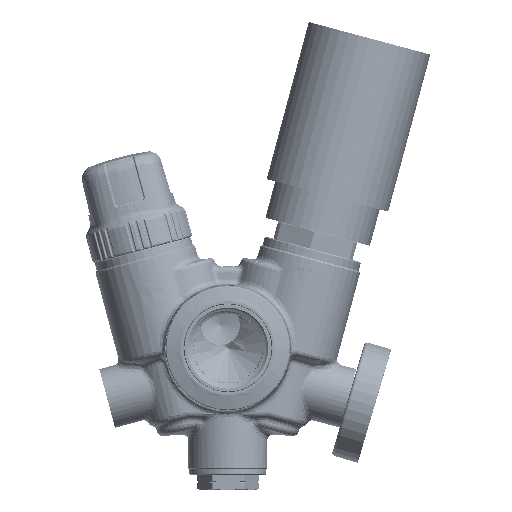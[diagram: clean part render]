
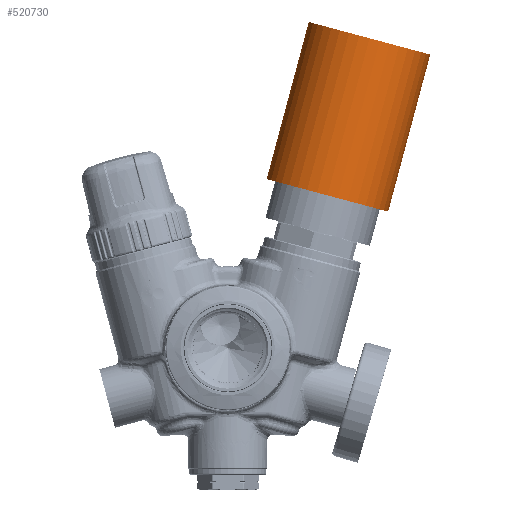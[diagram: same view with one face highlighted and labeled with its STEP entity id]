
A CAD part, left-side view. The second image highlights one B-rep face of the part: STEP entity #520730.
In plain terms, the highlighted cylindrical face has radius 20.766 mm (diameter 41.532 mm), a partial arc.
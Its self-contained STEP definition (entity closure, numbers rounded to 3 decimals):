
#520581 = VERTEX_POINT('',#520582);
#520582 = CARTESIAN_POINT('',(18.911,36.457,
    94.465));
#520589 = PLANE('',#520590);
#520590 = AXIS2_PLACEMENT_3D('',#520591,#520592,#520593);
#520591 = CARTESIAN_POINT('',(14.178,52.947,
    98.884));
#520592 = DIRECTION('',(0.,0.259,-0.966));
#520593 = DIRECTION('',(1.,0.,0.));
#520601 = PLANE('',#520602);
#520602 = AXIS2_PLACEMENT_3D('',#520603,#520604,#520605);
#520603 = CARTESIAN_POINT('',(16.408,29.514,
    120.378));
#520604 = DIRECTION('',(0.,0.966,0.259));
#520605 = DIRECTION('',(0.,-0.259,0.966));
#520613 = EDGE_CURVE('',#520614,#520581,#520616,.T.);
#520614 = VERTEX_POINT('',#520615);
#520615 = CARTESIAN_POINT('',(18.911,52.947,
    98.884));
#520616 = SURFACE_CURVE('',#520617,(#520622,#520633),.PCURVE_S1.);
#520617 = CIRCLE('',#520618,20.766);
#520618 = AXIS2_PLACEMENT_3D('',#520619,#520620,#520621);
#520619 = CARTESIAN_POINT('',(-0.02,44.702,
    96.674));
#520620 = DIRECTION('',(0.,-0.259,0.966));
#520621 = DIRECTION('',(1.,0.,0.));
#520622 = PCURVE('',#520589,#520623);
#520623 = DEFINITIONAL_REPRESENTATION('',(#520624),#520632);
#520624 = ( BOUNDED_CURVE() B_SPLINE_CURVE(2,(#520625,#520626,#520627,
    #520628,#520629,#520630,#520631),.UNSPECIFIED.,.T.,.F.) 
B_SPLINE_CURVE_WITH_KNOTS((1,2,2,2,2,1),(-2.094,0.,
    2.094,4.189,6.283,8.378),
.UNSPECIFIED.) CURVE() GEOMETRIC_REPRESENTATION_ITEM() 
RATIONAL_B_SPLINE_CURVE((1.,0.5,1.,0.5,1.,0.5,1.)) REPRESENTATION_ITEM(
  '') );
#520625 = CARTESIAN_POINT('',(6.568,8.536));
#520626 = CARTESIAN_POINT('',(6.568,-27.432));
#520627 = CARTESIAN_POINT('',(-24.581,-9.448));
#520628 = CARTESIAN_POINT('',(-55.73,8.536));
#520629 = CARTESIAN_POINT('',(-24.581,26.52));
#520630 = CARTESIAN_POINT('',(6.568,44.504));
#520631 = CARTESIAN_POINT('',(6.568,8.536));
#520632 = ( GEOMETRIC_REPRESENTATION_CONTEXT(2) 
PARAMETRIC_REPRESENTATION_CONTEXT() REPRESENTATION_CONTEXT('2D SPACE',''
  ) );
#520633 = PCURVE('',#520634,#520639);
#520634 = CYLINDRICAL_SURFACE('',#520635,20.766);
#520635 = AXIS2_PLACEMENT_3D('',#520636,#520637,#520638);
#520636 = CARTESIAN_POINT('',(-0.02,30.815,
    148.5));
#520637 = DIRECTION('',(0.,0.259,-0.966));
#520638 = DIRECTION('',(1.,0.,0.));
#520639 = DEFINITIONAL_REPRESENTATION('',(#520640),#520644);
#520640 = LINE('',#520641,#520642);
#520641 = CARTESIAN_POINT('',(6.283,53.654));
#520642 = VECTOR('',#520643,1.);
#520643 = DIRECTION('',(-1.,0.));
#520644 = ( GEOMETRIC_REPRESENTATION_CONTEXT(2) 
PARAMETRIC_REPRESENTATION_CONTEXT() REPRESENTATION_CONTEXT('2D SPACE',''
  ) );
#520662 = PLANE('',#520663);
#520663 = AXIS2_PLACEMENT_3D('',#520664,#520665,#520666);
#520664 = CARTESIAN_POINT('',(16.408,46.004,
    124.796));
#520665 = DIRECTION('',(0.,0.966,0.259));
#520666 = DIRECTION('',(0.,-0.259,0.966));
#520730 = ADVANCED_FACE('',(#520731),#520634,.T.);
#520731 = FACE_BOUND('',#520732,.T.);
#520732 = EDGE_LOOP('',(#520733,#520756,#520785,#520806));
#520733 = ORIENTED_EDGE('',*,*,#520734,.F.);
#520734 = EDGE_CURVE('',#520735,#520581,#520737,.T.);
#520735 = VERTEX_POINT('',#520736);
#520736 = CARTESIAN_POINT('',(18.911,22.57,
    146.291));
#520737 = SURFACE_CURVE('',#520738,(#520742,#520749),.PCURVE_S1.);
#520738 = LINE('',#520739,#520740);
#520739 = CARTESIAN_POINT('',(18.911,29.514,
    120.378));
#520740 = VECTOR('',#520741,1.);
#520741 = DIRECTION('',(0.,0.259,-0.966));
#520742 = PCURVE('',#520634,#520743);
#520743 = DEFINITIONAL_REPRESENTATION('',(#520744),#520748);
#520744 = LINE('',#520745,#520746);
#520745 = CARTESIAN_POINT('',(0.424,26.827));
#520746 = VECTOR('',#520747,1.);
#520747 = DIRECTION('',(0.,1.));
#520748 = ( GEOMETRIC_REPRESENTATION_CONTEXT(2) 
PARAMETRIC_REPRESENTATION_CONTEXT() REPRESENTATION_CONTEXT('2D SPACE',''
  ) );
#520749 = PCURVE('',#520601,#520750);
#520750 = DEFINITIONAL_REPRESENTATION('',(#520751),#520755);
#520751 = LINE('',#520752,#520753);
#520752 = CARTESIAN_POINT('',(0.,2.503));
#520753 = VECTOR('',#520754,1.);
#520754 = DIRECTION('',(-1.,0.));
#520755 = ( GEOMETRIC_REPRESENTATION_CONTEXT(2) 
PARAMETRIC_REPRESENTATION_CONTEXT() REPRESENTATION_CONTEXT('2D SPACE',''
  ) );
#520756 = ORIENTED_EDGE('',*,*,#520757,.F.);
#520757 = EDGE_CURVE('',#520758,#520735,#520760,.T.);
#520758 = VERTEX_POINT('',#520759);
#520759 = CARTESIAN_POINT('',(18.911,39.06,
    150.709));
#520760 = SURFACE_CURVE('',#520761,(#520766,#520773),.PCURVE_S1.);
#520761 = CIRCLE('',#520762,20.766);
#520762 = AXIS2_PLACEMENT_3D('',#520763,#520764,#520765);
#520763 = CARTESIAN_POINT('',(-0.02,30.815,
    148.5));
#520764 = DIRECTION('',(0.,-0.259,0.966));
#520765 = DIRECTION('',(1.,0.,0.));
#520766 = PCURVE('',#520634,#520767);
#520767 = DEFINITIONAL_REPRESENTATION('',(#520768),#520772);
#520768 = LINE('',#520769,#520770);
#520769 = CARTESIAN_POINT('',(6.283,0.));
#520770 = VECTOR('',#520771,1.);
#520771 = DIRECTION('',(-1.,0.));
#520772 = ( GEOMETRIC_REPRESENTATION_CONTEXT(2) 
PARAMETRIC_REPRESENTATION_CONTEXT() REPRESENTATION_CONTEXT('2D SPACE',''
  ) );
#520773 = PCURVE('',#520774,#520779);
#520774 = PLANE('',#520775);
#520775 = AXIS2_PLACEMENT_3D('',#520776,#520777,#520778);
#520776 = CARTESIAN_POINT('',(22.976,39.06,
    150.709));
#520777 = DIRECTION('',(0.,-0.259,0.966));
#520778 = DIRECTION('',(-1.,0.,0.));
#520779 = DEFINITIONAL_REPRESENTATION('',(#520780),#520784);
#520780 = CIRCLE('',#520781,20.766);
#520781 = AXIS2_PLACEMENT_2D('',#520782,#520783);
#520782 = CARTESIAN_POINT('',(22.996,8.536));
#520783 = DIRECTION('',(-1.,-0.));
#520784 = ( GEOMETRIC_REPRESENTATION_CONTEXT(2) 
PARAMETRIC_REPRESENTATION_CONTEXT() REPRESENTATION_CONTEXT('2D SPACE',''
  ) );
#520785 = ORIENTED_EDGE('',*,*,#520786,.F.);
#520786 = EDGE_CURVE('',#520614,#520758,#520787,.T.);
#520787 = SURFACE_CURVE('',#520788,(#520792,#520799),.PCURVE_S1.);
#520788 = LINE('',#520789,#520790);
#520789 = CARTESIAN_POINT('',(18.911,46.004,
    124.796));
#520790 = VECTOR('',#520791,1.);
#520791 = DIRECTION('',(0.,-0.259,0.966));
#520792 = PCURVE('',#520634,#520793);
#520793 = DEFINITIONAL_REPRESENTATION('',(#520794),#520798);
#520794 = LINE('',#520795,#520796);
#520795 = CARTESIAN_POINT('',(5.86,26.827));
#520796 = VECTOR('',#520797,1.);
#520797 = DIRECTION('',(0.,-1.));
#520798 = ( GEOMETRIC_REPRESENTATION_CONTEXT(2) 
PARAMETRIC_REPRESENTATION_CONTEXT() REPRESENTATION_CONTEXT('2D SPACE',''
  ) );
#520799 = PCURVE('',#520662,#520800);
#520800 = DEFINITIONAL_REPRESENTATION('',(#520801),#520805);
#520801 = LINE('',#520802,#520803);
#520802 = CARTESIAN_POINT('',(0.,2.503));
#520803 = VECTOR('',#520804,1.);
#520804 = DIRECTION('',(1.,0.));
#520805 = ( GEOMETRIC_REPRESENTATION_CONTEXT(2) 
PARAMETRIC_REPRESENTATION_CONTEXT() REPRESENTATION_CONTEXT('2D SPACE',''
  ) );
#520806 = ORIENTED_EDGE('',*,*,#520613,.T.);
